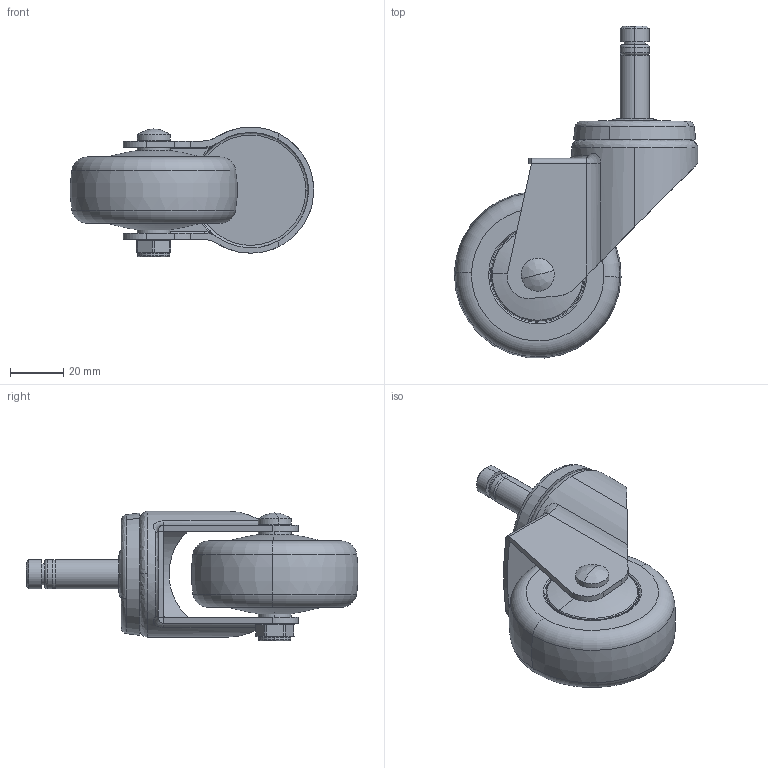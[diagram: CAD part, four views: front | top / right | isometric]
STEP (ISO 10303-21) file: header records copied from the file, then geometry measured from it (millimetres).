
FILE_DESCRIPTION (( 'STEP AP214' ), '1' );
FILE_NAME ('372525-3725-67 脣裝勀砃.STEP', '2019-12-14T00:13:20', ( 'Owner' ), ( 'Organization' ), 'SwSTEP 2.0', 'SolidWorks 2014', '' );
FILE_SCHEMA (( 'AUTOMOTIVE_DESIGN' ));
Length unit declared in the file: millimetre
Products named in the file (9): 372525-3725-67 脣裝勀砃; 3725-907; 360-03上刚碗 （37系列使用模型）; 3725-11; 350-25 脣裝; 350-33a; 300-34; 价陬; 2.5渡勀砃
Assembly tree (8 placements, depth 4):
  372525-3725-67 脣裝勀砃
    2.5渡勀砃
      3725-11
      360-03上刚碗 （37系列使用模型）
      价陬
        300-34
        350-33a
    350-25 脣裝
    3725-907
Bounding box: 91.67 x 125.04 x 48.9 mm (x, y, z)
Volume: 107404.9 mm3; surface area: 35691.2 mm2
Topology: 6 solids, 6 shells, 226 faces, 564 edges, 358 vertices
Faces by surface type: cylinder 82, bspline 48, plane 47, torus 26, cone 23
Entity records: 85310 total; most frequent: CARTESIAN_POINT 79925, ORIENTED_EDGE 1122, DIRECTION 1000, EDGE_CURVE 561, AXIS2_PLACEMENT_3D 421, VERTEX_POINT 358, EDGE_LOOP 247, CIRCLE 230
